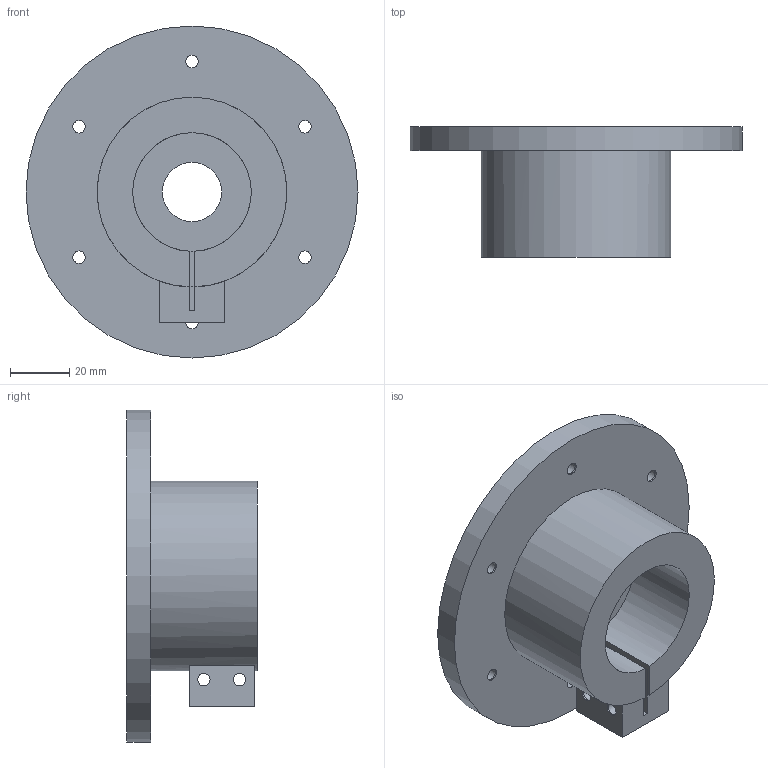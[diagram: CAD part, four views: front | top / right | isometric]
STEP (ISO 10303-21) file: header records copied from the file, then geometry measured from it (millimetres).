
FILE_DESCRIPTION(('Open CASCADE Model'),'2;1');
FILE_NAME('Open CASCADE Shape Model','2026-10-18T22:58:03',('Author'),( 'Open CASCADE'),'Open CASCADE STEP processor 7.9','Open CASCADE 7.9' ,'Unknown');
FILE_SCHEMA(('AUTOMOTIVE_DESIGN { 1 0 10303 214 1 1 1 1 }'));
Length unit declared in the file: millimetre
Products named in the file (1): Open CASCADE STEP translator 7.9 5
Bounding box: 112 x 44 x 112 mm (x, y, z)
Volume: 160009.1 mm3; surface area: 36504.6 mm2
Topology: 1 solids, 1 shells, 38 faces, 101 edges, 65 vertices
Faces by surface type: cylinder 22, plane 16
Full cylindrical faces by diameter (mm): 4.2 x15, 5.5 x2, 20 x2, 40.04 x1, 64 x1, 112 x1
Entity records: 2581 total; most frequent: CARTESIAN_POINT 571, DIRECTION 362, ORIENTED_EDGE 202, PCURVE 202, DEFINITIONAL_REPRESENTATION 202, LINE 176, VECTOR 176, EDGE_CURVE 101
